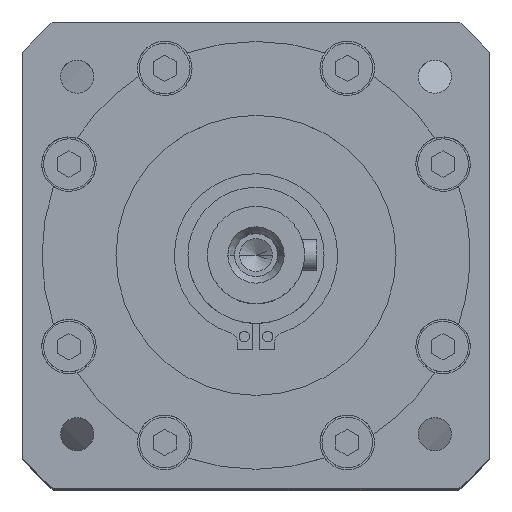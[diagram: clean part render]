
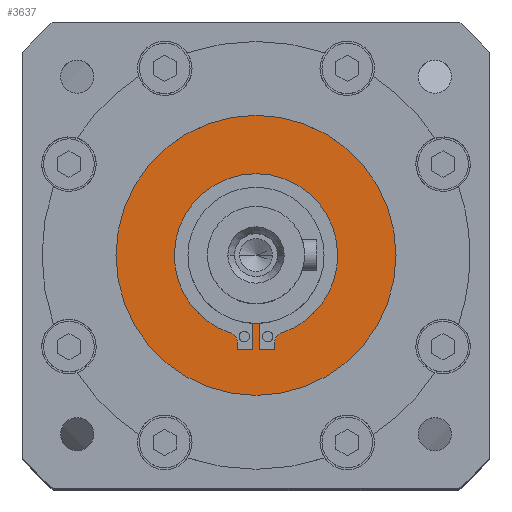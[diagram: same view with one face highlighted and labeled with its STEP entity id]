
A CAD part, top view. The second image highlights one B-rep face of the part: STEP entity #3637.
In plain terms, the highlighted planar face has unit normal (0, 0, 1).
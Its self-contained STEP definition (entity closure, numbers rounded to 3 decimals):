
#57 = CARTESIAN_POINT ( 'NONE',  ( -0.85, -24.279, -2.7 ) ) ;
#71 = CIRCLE ( 'NONE', #7357, 36. ) ;
#719 = DIRECTION ( 'NONE',  ( -1., 0., 0. ) ) ;
#928 = PLANE ( 'NONE',  #4227 ) ;
#1023 = VERTEX_POINT ( 'NONE', #12009 ) ;
#1248 = DIRECTION ( 'NONE',  ( -1., 0., 0. ) ) ;
#1376 = DIRECTION ( 'NONE',  ( -1., 0., 0. ) ) ;
#1842 = VECTOR ( 'NONE', #4214, 1000. ) ;
#1919 = EDGE_CURVE ( 'NONE', #18387, #17525, #19878, .T. ) ;
#1982 = AXIS2_PLACEMENT_3D ( 'NONE', #19791, #9307, #21539 ) ;
#2076 = LINE ( 'NONE', #2433, #1842 ) ;
#2257 = VERTEX_POINT ( 'NONE', #7181 ) ;
#2354 = CIRCLE ( 'NONE', #4781, 21. ) ;
#2433 = CARTESIAN_POINT ( 'NONE',  ( 4.85, -23.779, -2.7 ) ) ;
#2465 = AXIS2_PLACEMENT_3D ( 'NONE', #6122, #18410, #7896 ) ;
#2500 = CARTESIAN_POINT ( 'NONE',  ( -36., 0., -2.7 ) ) ;
#2513 = VERTEX_POINT ( 'NONE', #19421 ) ;
#2682 = CARTESIAN_POINT ( 'NONE',  ( -6.568, -19.946, -2.7 ) ) ;
#2746 = VECTOR ( 'NONE', #10429, 1000. ) ;
#2949 = VERTEX_POINT ( 'NONE', #12072 ) ;
#3414 = CARTESIAN_POINT ( 'NONE',  ( 0., 0., -2.7 ) ) ;
#3450 = EDGE_CURVE ( 'NONE', #5961, #4207, #16544, .T. ) ;
#3563 = CARTESIAN_POINT ( 'NONE',  ( -4.35, -23.779, -2.7 ) ) ;
#3637 = ADVANCED_FACE ( 'NONE', ( #5562, #13803 ), #928, .F. ) ;
#3951 = EDGE_CURVE ( 'NONE', #2257, #17530, #71, .T. ) ;
#4207 = VERTEX_POINT ( 'NONE', #22665 ) ;
#4214 = DIRECTION ( 'NONE',  ( 0., 1., 0. ) ) ;
#4227 = AXIS2_PLACEMENT_3D ( 'NONE', #3414, #9855, #16049 ) ;
#4314 = CARTESIAN_POINT ( 'NONE',  ( -4.85, -22.321, -2.7 ) ) ;
#4763 = VERTEX_POINT ( 'NONE', #10135 ) ;
#4781 = AXIS2_PLACEMENT_3D ( 'NONE', #22244, #11769, #1248 ) ;
#4998 = CARTESIAN_POINT ( 'NONE',  ( 0., 0., -2.7 ) ) ;
#5095 = DIRECTION ( 'NONE',  ( 0., -1., 0. ) ) ;
#5125 = VERTEX_POINT ( 'NONE', #16037 ) ;
#5300 = ORIENTED_EDGE ( 'NONE', *, *, #19635, .F. ) ;
#5316 = DIRECTION ( 'NONE',  ( -1., 0., 0. ) ) ;
#5486 = LINE ( 'NONE', #20737, #9605 ) ;
#5550 = CARTESIAN_POINT ( 'NONE',  ( -0.85, -24.279, -2.7 ) ) ;
#5562 = FACE_OUTER_BOUND ( 'NONE', #7186, .T. ) ;
#5678 = VECTOR ( 'NONE', #5742, 1000. ) ;
#5742 = DIRECTION ( 'NONE',  ( 0., -1., 0. ) ) ;
#5889 = VECTOR ( 'NONE', #11207, 1000. ) ;
#5921 = CARTESIAN_POINT ( 'NONE',  ( 0.85, -24.279, -2.7 ) ) ;
#5961 = VERTEX_POINT ( 'NONE', #57 ) ;
#6035 = VERTEX_POINT ( 'NONE', #20990 ) ;
#6122 = CARTESIAN_POINT ( 'NONE',  ( 4.35, -23.779, -2.7 ) ) ;
#6161 = ORIENTED_EDGE ( 'NONE', *, *, #3450, .F. ) ;
#6336 = ORIENTED_EDGE ( 'NONE', *, *, #18349, .F. ) ;
#6478 = CARTESIAN_POINT ( 'NONE',  ( 0., 0., -2.7 ) ) ;
#6812 = EDGE_CURVE ( 'NONE', #21740, #5961, #12673, .T. ) ;
#6920 = CARTESIAN_POINT ( 'NONE',  ( -0.85, -24.279, -2.7 ) ) ;
#7092 = CARTESIAN_POINT ( 'NONE',  ( 7.35, -22.321, -2.7 ) ) ;
#7181 = CARTESIAN_POINT ( 'NONE',  ( 36., 0., -2.7 ) ) ;
#7186 = EDGE_LOOP ( 'NONE', ( #22039, #10242 ) ) ;
#7240 = EDGE_CURVE ( 'NONE', #2949, #18387, #5486, .T. ) ;
#7357 = AXIS2_PLACEMENT_3D ( 'NONE', #4998, #10406, #20375 ) ;
#7554 = EDGE_CURVE ( 'NONE', #6035, #9374, #10414, .T. ) ;
#7866 = EDGE_LOOP ( 'NONE', ( #6161, #18452, #14552, #19741, #5300, #19352, #6336, #19237, #15005, #13011, #20222, #14750, #16074, #13900 ) ) ;
#7896 = DIRECTION ( 'NONE',  ( 1., 0., 0. ) ) ;
#8168 = CIRCLE ( 'NONE', #15682, 0.5 ) ;
#8172 = CARTESIAN_POINT ( 'NONE',  ( 0., 0., -2.7 ) ) ;
#8266 = DIRECTION ( 'NONE',  ( -1., 0., 0. ) ) ;
#8367 = AXIS2_PLACEMENT_3D ( 'NONE', #22358, #11888, #1376 ) ;
#8860 = DIRECTION ( 'NONE',  ( 1., 0., 0. ) ) ;
#8930 = CIRCLE ( 'NONE', #22561, 2.5 ) ;
#9307 = DIRECTION ( 'NONE',  ( 0., 0., 1. ) ) ;
#9374 = VERTEX_POINT ( 'NONE', #2682 ) ;
#9605 = VECTOR ( 'NONE', #5095, 1000. ) ;
#9673 = EDGE_CURVE ( 'NONE', #19691, #2513, #14996, .T. ) ;
#9855 = DIRECTION ( 'NONE',  ( 0., 0., -1. ) ) ;
#9906 = DIRECTION ( 'NONE',  ( -1., 0., 0. ) ) ;
#10135 = CARTESIAN_POINT ( 'NONE',  ( 4.85, -22.321, -2.7 ) ) ;
#10242 = ORIENTED_EDGE ( 'NONE', *, *, #20418, .T. ) ;
#10406 = DIRECTION ( 'NONE',  ( 0., 0., 1. ) ) ;
#10414 = CIRCLE ( 'NONE', #14147, 21. ) ;
#10429 = DIRECTION ( 'NONE',  ( 1., 0., 0. ) ) ;
#11207 = DIRECTION ( 'NONE',  ( 1., 0., 0. ) ) ;
#11216 = DIRECTION ( 'NONE',  ( 0., 0., -1. ) ) ;
#11420 = CARTESIAN_POINT ( 'NONE',  ( 0.85, -24.279, -2.7 ) ) ;
#11769 = DIRECTION ( 'NONE',  ( 0., 0., 1. ) ) ;
#11888 = DIRECTION ( 'NONE',  ( 0., 0., 1. ) ) ;
#12009 = CARTESIAN_POINT ( 'NONE',  ( 4.85, -23.779, -2.7 ) ) ;
#12072 = CARTESIAN_POINT ( 'NONE',  ( 0.85, -17.479, -2.7 ) ) ;
#12075 = DIRECTION ( 'NONE',  ( 0., 1., 0. ) ) ;
#12673 = LINE ( 'NONE', #6920, #2746 ) ;
#12887 = EDGE_CURVE ( 'NONE', #17525, #1023, #13202, .T. ) ;
#13011 = ORIENTED_EDGE ( 'NONE', *, *, #21451, .F. ) ;
#13194 = CARTESIAN_POINT ( 'NONE',  ( 6.568, -19.946, -2.7 ) ) ;
#13202 = CIRCLE ( 'NONE', #2465, 0.5 ) ;
#13803 = FACE_BOUND ( 'NONE', #7866, .T. ) ;
#13900 = ORIENTED_EDGE ( 'NONE', *, *, #22569, .F. ) ;
#14147 = AXIS2_PLACEMENT_3D ( 'NONE', #6478, #16573, #8266 ) ;
#14179 = AXIS2_PLACEMENT_3D ( 'NONE', #7092, #19348, #8860 ) ;
#14552 = ORIENTED_EDGE ( 'NONE', *, *, #21043, .F. ) ;
#14750 = ORIENTED_EDGE ( 'NONE', *, *, #1919, .F. ) ;
#14783 = CARTESIAN_POINT ( 'NONE',  ( 4.35, -24.279, -2.7 ) ) ;
#14996 = LINE ( 'NONE', #18016, #5678 ) ;
#15005 = ORIENTED_EDGE ( 'NONE', *, *, #18228, .F. ) ;
#15682 = AXIS2_PLACEMENT_3D ( 'NONE', #3563, #15818, #5316 ) ;
#15818 = DIRECTION ( 'NONE',  ( 0., 0., 1. ) ) ;
#16037 = CARTESIAN_POINT ( 'NONE',  ( 21., 0., -2.7 ) ) ;
#16049 = DIRECTION ( 'NONE',  ( -1., 0., 0. ) ) ;
#16074 = ORIENTED_EDGE ( 'NONE', *, *, #7240, .F. ) ;
#16544 = LINE ( 'NONE', #5550, #21216 ) ;
#16573 = DIRECTION ( 'NONE',  ( 0., 0., 1. ) ) ;
#17050 = AXIS2_PLACEMENT_3D ( 'NONE', #8172, #20407, #9906 ) ;
#17423 = CARTESIAN_POINT ( 'NONE',  ( -4.35, -24.279, -2.7 ) ) ;
#17525 = VERTEX_POINT ( 'NONE', #14783 ) ;
#17530 = VERTEX_POINT ( 'NONE', #2500 ) ;
#18016 = CARTESIAN_POINT ( 'NONE',  ( -4.85, -23.779, -2.7 ) ) ;
#18040 = EDGE_CURVE ( 'NONE', #20315, #5125, #2354, .T. ) ;
#18228 = EDGE_CURVE ( 'NONE', #4763, #20315, #18846, .T. ) ;
#18349 = EDGE_CURVE ( 'NONE', #5125, #6035, #22376, .T. ) ;
#18387 = VERTEX_POINT ( 'NONE', #11420 ) ;
#18410 = DIRECTION ( 'NONE',  ( 0., 0., 1. ) ) ;
#18452 = ORIENTED_EDGE ( 'NONE', *, *, #6812, .F. ) ;
#18783 = CIRCLE ( 'NONE', #8367, 36. ) ;
#18846 = CIRCLE ( 'NONE', #14179, 2.5 ) ;
#19237 = ORIENTED_EDGE ( 'NONE', *, *, #18040, .F. ) ;
#19348 = DIRECTION ( 'NONE',  ( 0., 0., -1. ) ) ;
#19352 = ORIENTED_EDGE ( 'NONE', *, *, #7554, .F. ) ;
#19421 = CARTESIAN_POINT ( 'NONE',  ( -4.85, -23.779, -2.7 ) ) ;
#19635 = EDGE_CURVE ( 'NONE', #9374, #19691, #8930, .T. ) ;
#19691 = VERTEX_POINT ( 'NONE', #4314 ) ;
#19741 = ORIENTED_EDGE ( 'NONE', *, *, #9673, .F. ) ;
#19791 = CARTESIAN_POINT ( 'NONE',  ( 0., 0., -2.7 ) ) ;
#19878 = LINE ( 'NONE', #5921, #5889 ) ;
#20222 = ORIENTED_EDGE ( 'NONE', *, *, #12887, .F. ) ;
#20315 = VERTEX_POINT ( 'NONE', #13194 ) ;
#20375 = DIRECTION ( 'NONE',  ( -1., 0., 0. ) ) ;
#20407 = DIRECTION ( 'NONE',  ( 0., 0., 1. ) ) ;
#20418 = EDGE_CURVE ( 'NONE', #17530, #2257, #18783, .T. ) ;
#20737 = CARTESIAN_POINT ( 'NONE',  ( 0.85, -24.279, -2.7 ) ) ;
#20754 = CIRCLE ( 'NONE', #17050, 17.5 ) ;
#20990 = CARTESIAN_POINT ( 'NONE',  ( -21., 0., -2.7 ) ) ;
#21043 = EDGE_CURVE ( 'NONE', #2513, #21740, #8168, .T. ) ;
#21216 = VECTOR ( 'NONE', #12075, 1000. ) ;
#21451 = EDGE_CURVE ( 'NONE', #1023, #4763, #2076, .T. ) ;
#21539 = DIRECTION ( 'NONE',  ( -1., 0., 0. ) ) ;
#21702 = CARTESIAN_POINT ( 'NONE',  ( -7.35, -22.321, -2.7 ) ) ;
#21740 = VERTEX_POINT ( 'NONE', #17423 ) ;
#22039 = ORIENTED_EDGE ( 'NONE', *, *, #3951, .T. ) ;
#22244 = CARTESIAN_POINT ( 'NONE',  ( 0., 0., -2.7 ) ) ;
#22358 = CARTESIAN_POINT ( 'NONE',  ( 0., 0., -2.7 ) ) ;
#22376 = CIRCLE ( 'NONE', #1982, 21. ) ;
#22561 = AXIS2_PLACEMENT_3D ( 'NONE', #21702, #11216, #719 ) ;
#22569 = EDGE_CURVE ( 'NONE', #4207, #2949, #20754, .T. ) ;
#22665 = CARTESIAN_POINT ( 'NONE',  ( -0.85, -17.479, -2.7 ) ) ;
